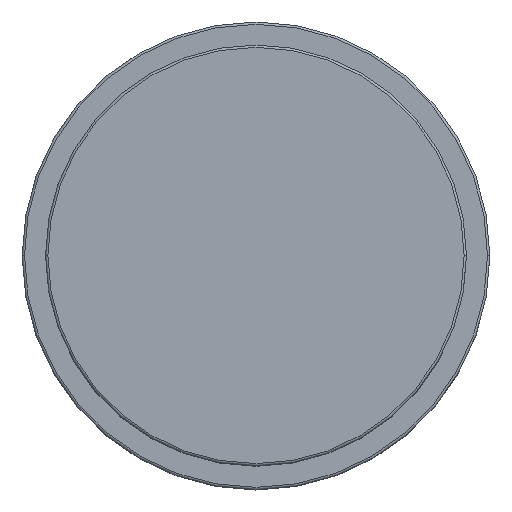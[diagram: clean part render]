
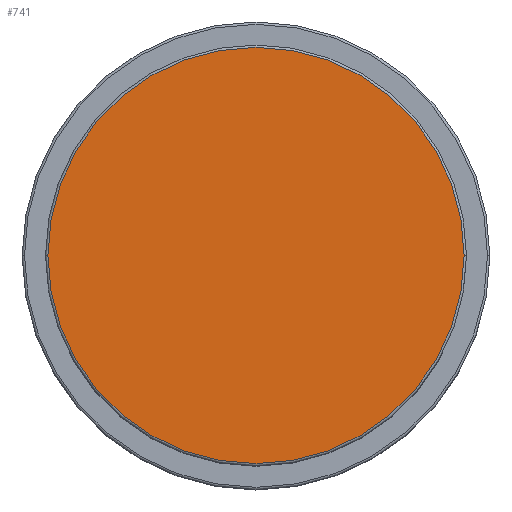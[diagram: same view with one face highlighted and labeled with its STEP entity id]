
A CAD part, top view. The second image highlights one B-rep face of the part: STEP entity #741.
In plain terms, the highlighted planar face has unit normal (0, 0, 1).
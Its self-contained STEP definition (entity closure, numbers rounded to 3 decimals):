
#123 = CARTESIAN_POINT ( 'NONE',  ( 0., 0., 62. ) ) ;
#130 = CARTESIAN_POINT ( 'NONE',  ( -44.5, 0., 62. ) ) ;
#165 = DIRECTION ( 'NONE',  ( 1., 0., 0. ) ) ;
#252 = AXIS2_PLACEMENT_3D ( 'NONE', #1394, #1123, #165 ) ;
#255 = DIRECTION ( 'NONE',  ( 0., 0., 1. ) ) ;
#368 = AXIS2_PLACEMENT_3D ( 'NONE', #542, #417, #1506 ) ;
#397 = DIRECTION ( 'NONE',  ( 1., 0., 0. ) ) ;
#417 = DIRECTION ( 'NONE',  ( 0., 0., 1. ) ) ;
#468 = ORIENTED_EDGE ( 'NONE', *, *, #945, .T. ) ;
#525 = CARTESIAN_POINT ( 'NONE',  ( 44.5, 0., 62. ) ) ;
#542 = CARTESIAN_POINT ( 'NONE',  ( 0., 0., 62. ) ) ;
#565 = PLANE ( 'NONE',  #252 ) ;
#590 = CIRCLE ( 'NONE', #368, 44.5 ) ;
#623 = VERTEX_POINT ( 'NONE', #130 ) ;
#741 = ADVANCED_FACE ( 'NONE', ( #1747 ), #565, .T. ) ;
#778 = EDGE_LOOP ( 'NONE', ( #468, #1271 ) ) ;
#945 = EDGE_CURVE ( 'NONE', #974, #623, #1305, .T. ) ;
#974 = VERTEX_POINT ( 'NONE', #525 ) ;
#979 = EDGE_CURVE ( 'NONE', #623, #974, #590, .T. ) ;
#1123 = DIRECTION ( 'NONE',  ( 0., 0., 1. ) ) ;
#1271 = ORIENTED_EDGE ( 'NONE', *, *, #979, .T. ) ;
#1305 = CIRCLE ( 'NONE', #1598, 44.5 ) ;
#1394 = CARTESIAN_POINT ( 'NONE',  ( 0., 0., 62. ) ) ;
#1506 = DIRECTION ( 'NONE',  ( 1., 0., 0. ) ) ;
#1598 = AXIS2_PLACEMENT_3D ( 'NONE', #123, #255, #397 ) ;
#1747 = FACE_OUTER_BOUND ( 'NONE', #778, .T. ) ;
